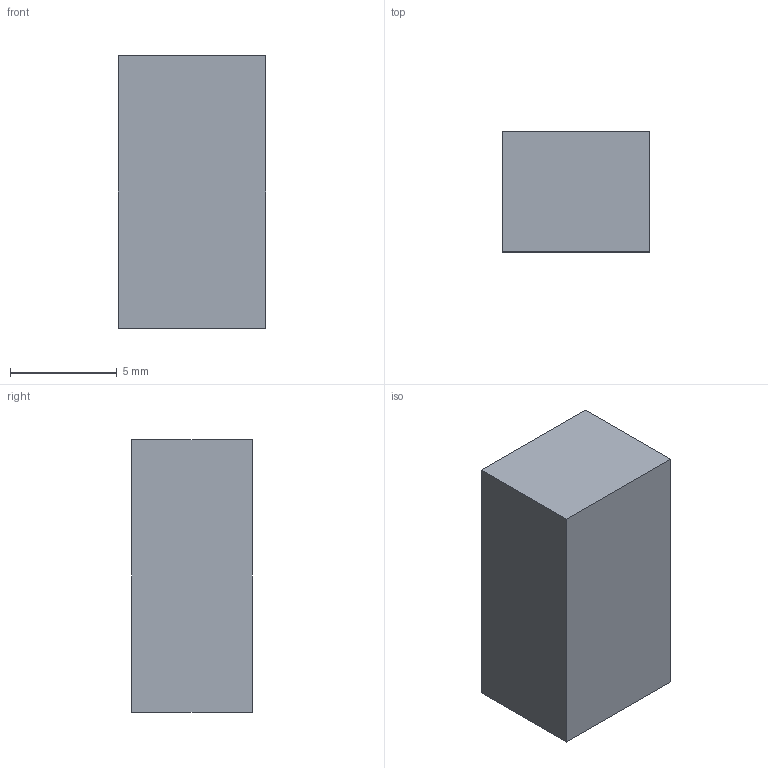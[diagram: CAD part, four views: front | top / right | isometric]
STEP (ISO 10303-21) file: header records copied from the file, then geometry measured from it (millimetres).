
FILE_DESCRIPTION (( 'STEP AP214' ), '1' );
FILE_NAME ('Ethernet_Magnetics_TS8121CMHF.STEP', '2026-01-15T22:00:59', ( '' ), ( '' ), 'SwSTEP 2.0', 'SolidWorks 2020', '' );
FILE_SCHEMA (( 'AUTOMOTIVE_DESIGN' ));
Length unit declared in the file: millimetre
Products named in the file (1): Ethernet_Magnetics_TS8121CMHF
Bounding box: 6.9 x 5.65 x 12.8 mm (x, y, z)
Volume: 499 mm3; surface area: 399.2 mm2
Topology: 1 solids, 1 shells, 6 faces, 12 edges, 8 vertices
Faces by surface type: plane 6
Entity records: 190 total; most frequent: CARTESIAN_POINT 27, DIRECTION 26, ORIENTED_EDGE 24, VECTOR 12, LINE 12, EDGE_CURVE 12, VERTEX_POINT 8, AXIS2_PLACEMENT_3D 7
